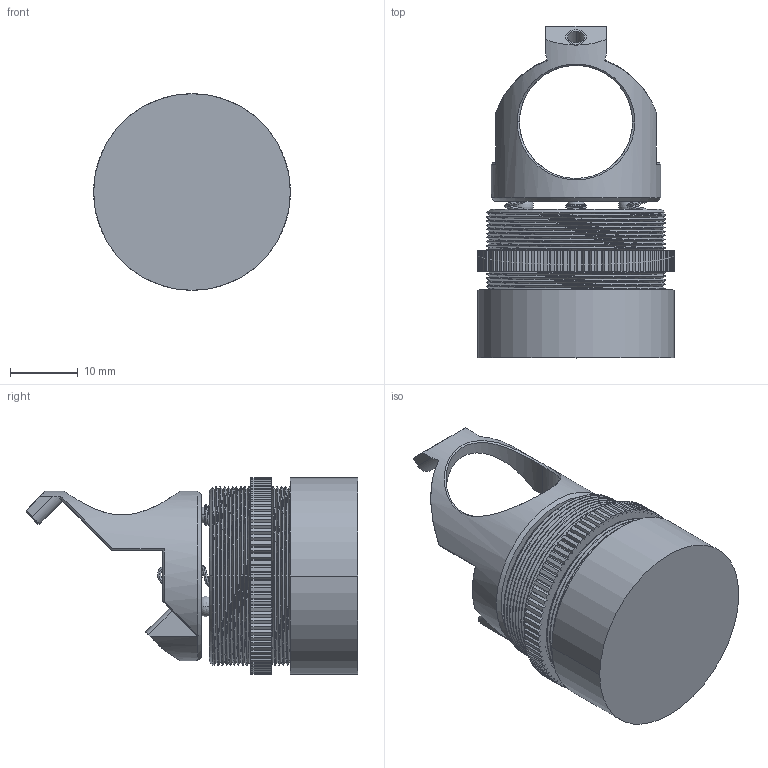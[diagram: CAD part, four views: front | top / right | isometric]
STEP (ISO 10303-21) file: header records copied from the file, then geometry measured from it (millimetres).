
FILE_DESCRIPTION((''),'2;1');
FILE_NAME('LRM45-0001_ASM','2024-01-11T08:58:58',('R&D'),(''),'CREO PARAMETRIC BY PTC INC, 2021063','CREO PARAMETRIC BY PTC INC, 2021063','');
FILE_SCHEMA(('CONFIG_CONTROL_DESIGN'));
Length unit declared in the file: millimetre
Products named in the file (12): LRM45-20; LRM45-20-1; LRM45-20-2; LRM45-20-5; LRM45-20-4; LRM45-20-6; LRM45-20-3; LRM45-20-7; LRM45-20-8; LRM45-20-9; LRM45-20-10; LRM45-0001_ASM
Assembly tree (16 placements, depth 2):
  LRM45-0001_ASM
    LRM45-20
    LRM45-20-1
    LRM45-20-2
    LRM45-20-5  x2
    LRM45-20-4
    LRM45-20-6
    LRM45-20-3
    LRM45-20-7
    LRM45-20-8
    LRM45-20-9  x2
    LRM45-20-10  x4
Bounding box: 29 x 48.91 x 29 mm (x, y, z)
Volume: 12194.2 mm3; surface area: 11743.8 mm2
Topology: 14 solids, 15 shells, 935 faces, 2657 edges, 1741 vertices
Faces by surface type: plane 401, cylinder 392, bspline 85, cone 35, torus 16, sphere 6
Entity records: 46770 total; most frequent: CARTESIAN_POINT 24265, ORIENTED_EDGE 5142, DIRECTION 3982, EDGE_CURVE 2573, VERTEX_POINT 1699, AXIS2_PLACEMENT_3D 1366, VECTOR 1250, LINE 1250
